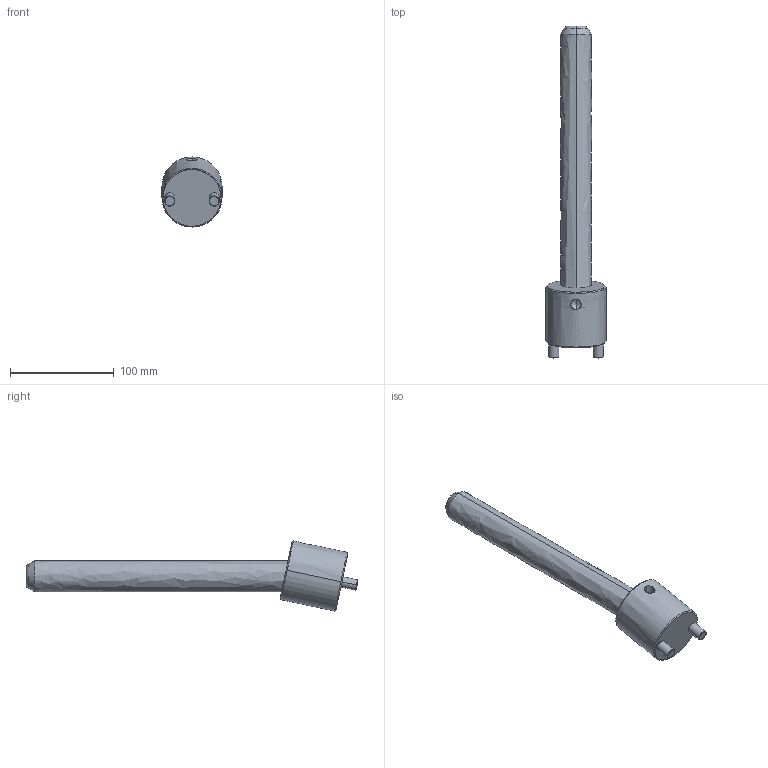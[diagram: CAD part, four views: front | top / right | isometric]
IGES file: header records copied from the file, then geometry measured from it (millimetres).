
Start section: START RECORD GO HERE.
Global section: file name: CI1230250.igs; native system: DASSAULT SYSTEMES CATIA V5 R20 - www.3ds.com; preprocessor: CATIA Version 5 Release 20 ; author: r.borello; organization: CFTORINO; date: 20190621.161116; units: millimetre
Bounding box: 58 x 320.65 x 67.75 mm (x, y, z)
Surface area: 49670.5 mm2 (no closed solid volume)
Topology: 0 solids, 0 shells, 39 faces, 162 edges, 160 vertices
Faces by surface type: revolution 32, plane 7
